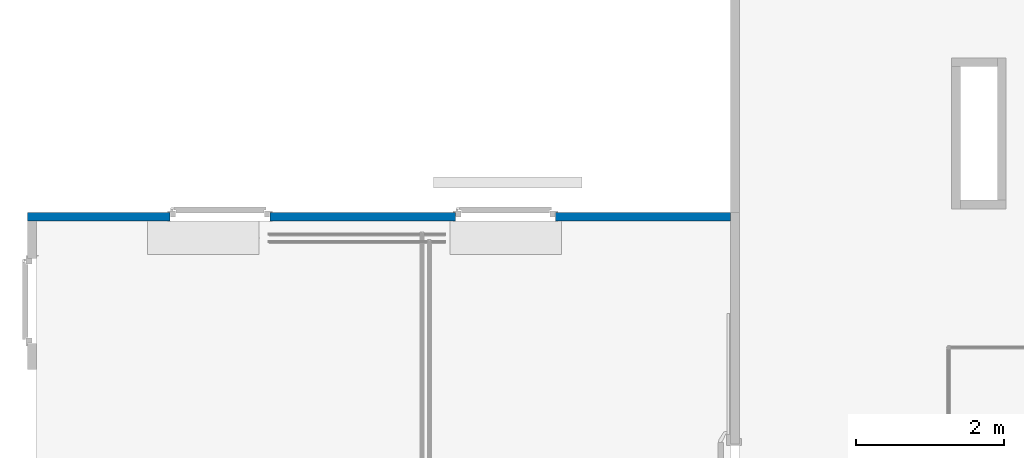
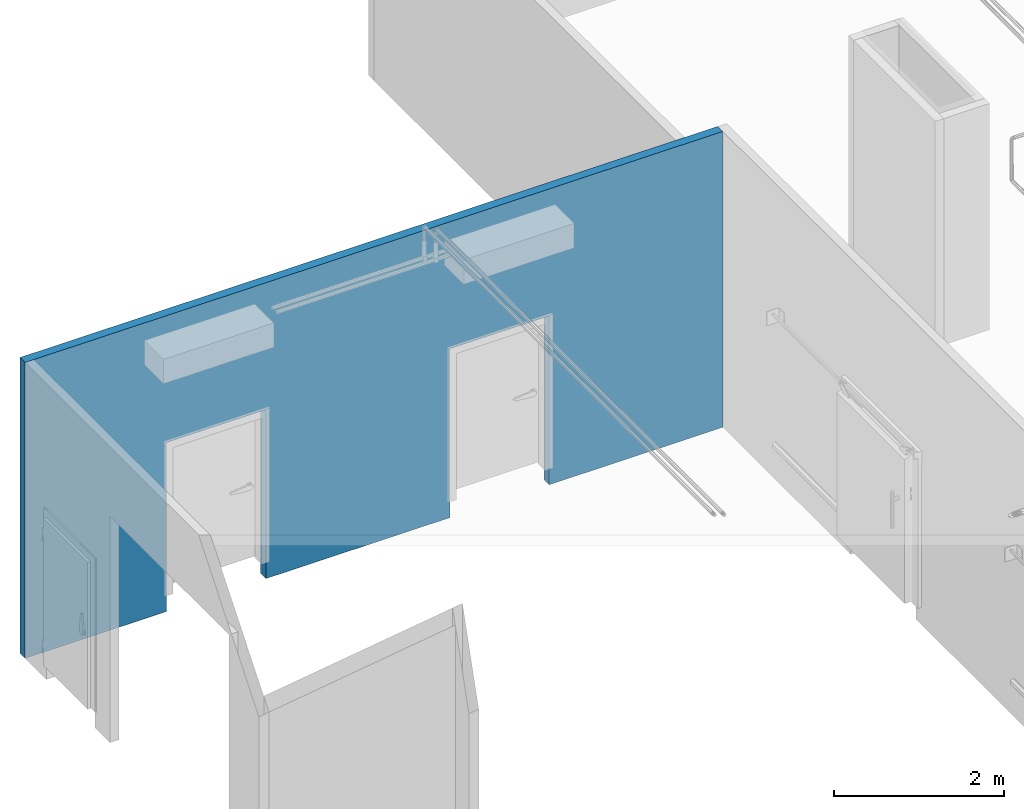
# One storey, part 26 of 652: 1 wall, 4 openings.
"""IFC2X3 building model written with IfcOpenShell, lengths in millimetres."""

import ifcopenshell
import ifcopenshell.guid

model = None  # the IFC model being written
_history = None  # IfcOwnerHistory: only IFC2X3 demands one
_inside = {}  # id of a spatial element -> (the spatial element, [elements in it])
_under = {}  # id of a project, library or spatial element -> (it, [spatial elements below it])
_declared = {}  # id of a project -> (the project, [libraries it declares])
_typed = {}  # id of a type object -> (the type object, [elements of that type])
_made_of = {}  # id of a material, layer set ... -> (it, [elements and type objects made of it])


def new_model(schema):
    """Start an empty IFC model of exactly this schema.

    Asked for "IFC4X3", IfcOpenShell would pick the latest addendum, in which some entities
    have other attributes; the version numbers below select the first issue.
    IFC2X3 requires an IfcOwnerHistory on every rooted entity: one is made here for all.
    """
    global model, _history
    if schema == "IFC4X3":
        model = ifcopenshell.file(schema_version=(4, 3, 0, 0))
    else:
        model = ifcopenshell.file(schema=schema)
    _inside.clear()
    _under.clear()
    _declared.clear()
    _typed.clear()
    _made_of.clear()
    _history = None
    if model.schema == "IFC2X3":
        org = make("IfcOrganization", Name="unknown")
        user = make(
            "IfcPersonAndOrganization",
            ThePerson=make("IfcPerson", FamilyName="unknown"),
            TheOrganization=org,
        )
        app = make(
            "IfcApplication",
            ApplicationDeveloper=org,
            Version="unknown",
            ApplicationFullName="unknown",
            ApplicationIdentifier="unknown",
        )
        _history = make(
            "IfcOwnerHistory",
            OwningUser=user,
            OwningApplication=app,
            ChangeAction="ADDED",
            CreationDate=0,
        )
    return model


def make(cls, **values):
    """One entity of the class cls with the attributes given. An attribute that is None is left unset."""
    return model.create_entity(
        cls, **{name: value for name, value in values.items() if value is not None}
    )


def entity(cls, *values):
    """Any entity or typed value of the class cls, its attributes in the order of the schema. None: left unset."""
    e = model.create_entity(cls)
    for i, value in enumerate(values):
        if value is not None:
            e[i] = value
    return e


def rooted(cls, **values):
    """An entity with a GlobalId (a new one), such as an element, a storey or a relation."""
    return make(cls, GlobalId=ifcopenshell.guid.new(), OwnerHistory=_history, **values)


def si_unit(unit_type, name, prefix=None):
    """IfcSIUnit, for example si_unit("LENGTHUNIT", "METRE", prefix="MILLI")."""
    return make("IfcSIUnit", UnitType=unit_type, Prefix=prefix, Name=name)


def converted_unit(unit_type, name, factor, base, dimensions=None, offset=None):
    """IfcConversionBasedUnit, such as the inch: factor (a typed value) times the base unit."""
    return make(
        "IfcConversionBasedUnit"
        if offset is None
        else "IfcConversionBasedUnitWithOffset",
        ConversionOffset=offset,
        Dimensions=None
        if dimensions is None
        else entity("IfcDimensionalExponents", *dimensions),
        UnitType=unit_type,
        Name=name,
        ConversionFactor=make(
            "IfcMeasureWithUnit", ValueComponent=factor, UnitComponent=base
        ),
    )


def assignment(units):
    """IfcUnitAssignment: the units of a project."""
    return None if units is None else make("IfcUnitAssignment", Units=units)


def point(xyz):
    """IfcCartesianPoint."""
    return None if xyz is None else make("IfcCartesianPoint", Coordinates=xyz)


def direction(xyz):
    """IfcDirection."""
    return None if xyz is None else make("IfcDirection", DirectionRatios=xyz)


def frame(location, z_axis=None, x_axis=None):
    """IfcAxis2Placement3D, a coordinate frame: its origin and axes. An axis left out is left unset."""
    return make(
        "IfcAxis2Placement3D",
        Location=point(location),
        Axis=direction(z_axis),
        RefDirection=direction(x_axis),
    )


def frame_2d(location, x_axis=None):
    """IfcAxis2Placement2D, a coordinate frame in the plane: its origin and x axis."""
    return make(
        "IfcAxis2Placement2D", Location=point(location), RefDirection=direction(x_axis)
    )


def origin():
    """The frame at (0, 0, 0) with its axes left unset."""
    return frame((0.0, 0.0, 0.0))


def origin_2d_with_axis():
    """The frame at (0, 0) in the plane with the x axis (1, 0) written out."""
    return frame_2d((0.0, 0.0), x_axis=(1.0, 0.0))


def place(relative_to, where):
    """IfcLocalPlacement: puts the frame where relative to a parent placement (None: the world)."""
    return make(
        "IfcLocalPlacement", PlacementRelTo=relative_to, RelativePlacement=where
    )


def context(
    kind, dimensions, precision=None, world=None, true_north=None, identifier=None
):
    """IfcGeometricRepresentationContext, for example the 3D "Model" context."""
    return make(
        "IfcGeometricRepresentationContext",
        ContextIdentifier=identifier,
        ContextType=kind,
        CoordinateSpaceDimension=dimensions,
        Precision=precision,
        WorldCoordinateSystem=world,
        TrueNorth=true_north,
    )


def subcontext(parent, identifier, kind, view, scale=None):
    """IfcGeometricRepresentationSubContext, for example "Body" below "Model"."""
    return make(
        "IfcGeometricRepresentationSubContext",
        ContextIdentifier=identifier,
        ContextType=kind,
        ParentContext=parent,
        TargetScale=scale,
        TargetView=view,
    )


def project(units=None, contexts=None):
    """IfcProject with its units and contexts."""
    return rooted(
        "IfcProject",
        Name="project",
        RepresentationContexts=contexts,
        UnitsInContext=assignment(units),
    )


def spatial(cls, under=None, at=None, **own):
    """A site, building, storey or space (cls), placed at a placement, below another one or the project."""
    s = rooted(cls, ObjectPlacement=at, **own)
    if under is not None:
        _under.setdefault(under.id(), (under, []))[1].append(s)
    return s


def profile(cls, at=None, kind="AREA", **sizes):
    """A parametric profile (cls). Its sizes go by their IFC names, for example OverallWidth=200.0."""
    return make(cls, ProfileType=kind, Position=at, **sizes)


def rectangle(**sizes):
    """IfcRectangleProfileDef."""
    return profile("IfcRectangleProfileDef", **sizes)


def extrude(swept, where, along, depth):
    """IfcExtrudedAreaSolid: the profile swept, set in the frame where, extruded along a direction by depth."""
    return make(
        "IfcExtrudedAreaSolid",
        SweptArea=swept,
        Position=where,
        ExtrudedDirection=direction(along),
        Depth=depth,
    )


def shape(context_of_items, identifier, shape_type, items):
    """IfcShapeRepresentation: the items that make up one representation, for example the "Body"."""
    return make(
        "IfcShapeRepresentation",
        ContextOfItems=context_of_items,
        RepresentationIdentifier=identifier,
        RepresentationType=shape_type,
        Items=items,
    )


def material(Name=None, Category=None):
    """IfcMaterial."""
    return make("IfcMaterial", Name=Name, Category=Category)


def layer(
    of_material, thickness, ventilated=None, Name=None, Category=None, Priority=None
):
    """IfcMaterialLayer: one layer of a wall or slab, of a material (None: an air gap)."""
    return make(
        "IfcMaterialLayer",
        Material=of_material,
        LayerThickness=thickness,
        IsVentilated=ventilated,
        Name=Name,
        Category=Category,
        Priority=Priority,
    )


def layer_set(layers, Name=None):
    """IfcMaterialLayerSet."""
    return make("IfcMaterialLayerSet", MaterialLayers=layers, LayerSetName=Name)


def layer_usage(for_layer_set, set_direction, sense, offset, extent=None):
    """IfcMaterialLayerSetUsage: how a layer set lies in its element."""
    return make(
        "IfcMaterialLayerSetUsage",
        ForLayerSet=for_layer_set,
        LayerSetDirection=set_direction,
        DirectionSense=sense,
        OffsetFromReferenceLine=offset,
        ReferenceExtent=extent,
    )


def made_of(thing, what):
    """Note that an element or type object is made of a material, layer set ...; save() writes the relation."""
    if what is not None:
        _made_of.setdefault(what.id(), (what, []))[1].append(thing)
    return thing


def type_object(cls, material=None, **own):
    """A type object (cls), such as IfcWallType, which elements share."""
    return made_of(rooted(cls, **own), material)


def element(
    cls,
    number,
    at=None,
    inside=None,
    cuts=None,
    type_object=None,
    material=None,
    context=None,
    identifier="Body",
    shape_type=None,
    held_by="IfcProductDefinitionShape",
    body=None,
    shapes=None,
    **own,
):
    """One element of the class cls, such as IfcWall. Its Tag is "e" and its number.

    at: its placement. inside: the storey or other place that contains it. cuts: it is an
    opening in that element (IfcRelVoidsElement). A single representation is given by context,
    identifier, shape_type and body (its items); several are given by shapes. held_by: the class
    of the entity that holds the representations. save() writes the other relations.
    """
    e = rooted(cls, Tag="e%d" % number, ObjectPlacement=at, **own)
    if body is not None:
        shapes = [shape(context, identifier, shape_type, body)]
    if shapes is not None:
        e.Representation = make(held_by, Representations=shapes)
    if inside is not None:
        _inside.setdefault(inside.id(), (inside, []))[1].append(e)
    if cuts is not None:
        rooted(
            "IfcRelVoidsElement", RelatingBuildingElement=cuts, RelatedOpeningElement=e
        )
    if type_object is not None:
        _typed.setdefault(type_object.id(), (type_object, []))[1].append(e)
    return made_of(e, material)


def aggregate(whole, parts):
    """IfcRelAggregates: a whole, such as a stair, and the parts it consists of."""
    return rooted("IfcRelAggregates", RelatingObject=whole, RelatedObjects=parts)


def save(model, path):
    """Write the relations noted so far, then the file.

    IfcRelAggregates (storeys below a building ...), IfcRelContainedInSpatialStructure (elements
    in a storey), IfcRelDefinesByType, IfcRelAssociatesMaterial and IfcRelDeclares: one each for
    every whole, place, type object, material and project.
    """
    for whole, parts in _under.values():
        aggregate(whole, parts)
    for where, things in _inside.values():
        rooted(
            "IfcRelContainedInSpatialStructure",
            RelatedElements=things,
            RelatingStructure=where,
        )
    for kind, things in _typed.values():
        rooted("IfcRelDefinesByType", RelatedObjects=things, RelatingType=kind)
    for what, things in _made_of.values():
        rooted("IfcRelAssociatesMaterial", RelatedObjects=things, RelatingMaterial=what)
    for by, libraries in _declared.values():
        rooted("IfcRelDeclares", RelatingContext=by, RelatedDefinitions=libraries)
    model.write(path)


model = new_model("IFC2X3")

# Units and contexts
model_context = context("Model", 3, precision=0.01, world=frame((0.0, 0.0, 308426.39999999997)), true_north=direction((6.123233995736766e-17, 1.0)))
plan_context = context("Plan", 3, precision=0.01, world=frame((0.0, 0.0, 308426.39999999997)), true_north=direction((6.123233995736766e-17, 1.0)))
body_context = subcontext(model_context, "Body", "Model", "MODEL_VIEW")
ifc_project = project(units=[si_unit("LENGTHUNIT", "METRE", prefix="MILLI"), si_unit("AREAUNIT", "SQUARE_METRE"), si_unit("VOLUMEUNIT", "CUBIC_METRE"), converted_unit("PLANEANGLEUNIT", "DEGREE", entity("IfcPlaneAngleMeasure", 0.017453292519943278), si_unit("PLANEANGLEUNIT", "RADIAN"), dimensions=[0, 0, 0, 0, 0, 0, 0])], contexts=[model_context, plan_context])

# Site, building, storey
site_placement = place(None, origin())
site = spatial("IfcSite", under=ifc_project, at=site_placement, Name="Default", CompositionType="ELEMENT")
building_placement = place(site_placement, origin())
building = spatial("IfcBuilding", under=site, at=building_placement, CompositionType="ELEMENT")
storey_placement = place(building_placement, frame((0.0, 0.0, 1730.6999999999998)))
storey = spatial("IfcBuildingStorey", under=building, at=storey_placement, Name="EG_Produktion_FFB", CompositionType="ELEMENT", Elevation=1730.6999999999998)

# Wall, openings
ifc_material = material(Name="GPG_Paneelwand")
ifc_layer = layer(ifc_material, 120.0)
ifc_layer_set = layer_set([ifc_layer], Name="Basiswand:Kühlzellen Paneelwand 120")
ifc_layer_usage = layer_usage(ifc_layer_set, "AXIS2", "POSITIVE", -60.0)
wall_type = type_object("IfcWallType", Name="Basiswand:Kühlzellen Paneelwand 120", PredefinedType="STANDARD", material=ifc_layer_set)
wall_placement = place(storey_placement, frame((9670.0, 69925.10319626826, -250.0)))
wall = element("IfcWallStandardCase", 1, at=wall_placement, inside=storey, type_object=wall_type, material=ifc_layer_usage, Name="Basiswand:Kühlzellen Paneelwand 120", ObjectType="Basiswand:Kühlzellen Paneelwand 120", context=body_context, shape_type="SweptSolid", body=[
    extrude(rectangle(XDim=9479.99999999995, YDim=120.00000000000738, at=frame_2d((4739.999999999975, -6.750155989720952e-14), x_axis=(-1.0, 0.0))), origin(), (0.0, 0.0, 1.0), 4250.0),
])
opening_1_placement = place(wall_placement, frame((-9670.0, -69925.10319626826, 250.0)))
element("IfcOpeningElement", 2, at=opening_1_placement, cuts=wall, Name="Basiswand:Kühlzellen Paneelwand 120", ObjectType="Opening", context=body_context, shape_type="SweptSolid", body=[
    extrude(rectangle(XDim=2175.0, YDim=1350.0000000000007, at=frame_2d((1.1368683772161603e-13, 0.0), x_axis=(1.0, 0.0))), frame((16115.0, 68341.10319626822, 1087.4999999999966), z_axis=(0.0, 1.0, 0.0), x_axis=(0.0, 0.0, 1.0)), (0.0, 0.0, 1.0), 3048.0),
])
opening_2_placement = place(wall_placement, frame((-9670.0, -69925.10319626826, 250.0)))
element("IfcOpeningElement", 3, at=opening_2_placement, cuts=wall, Name="Basiswand:Kühlzellen Paneelwand 120", ObjectType="Opening", context=body_context, shape_type="SweptSolid", body=[
    extrude(rectangle(XDim=249.99999999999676, YDim=1350.0000000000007, at=origin_2d_with_axis()), frame((16115.0, 68461.10319626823, -125.0), z_axis=(0.0, 1.0, 0.0), x_axis=(0.0, 0.0, 1.0)), (0.0, 0.0, 1.0), 3048.0),
])
opening_3_placement = place(wall_placement, frame((-9670.0, -69925.10319626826, 250.0)))
element("IfcOpeningElement", 4, at=opening_3_placement, cuts=wall, Name="Basiswand:Kühlzellen Paneelwand 120", ObjectType="Opening", context=body_context, shape_type="SweptSolid", body=[
    extrude(rectangle(XDim=2175.0, YDim=1350.0000000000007, at=frame_2d((1.1368683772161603e-13, 0.0), x_axis=(1.0, 0.0))), frame((12265.0, 68341.10319626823, 1087.4999999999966), z_axis=(0.0, 1.0, 0.0), x_axis=(0.0, 0.0, 1.0)), (0.0, 0.0, 1.0), 3048.0),
])
opening_4_placement = place(wall_placement, frame((-9670.0, -69925.10319626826, 250.0)))
element("IfcOpeningElement", 5, at=opening_4_placement, cuts=wall, Name="Basiswand:Kühlzellen Paneelwand 120", ObjectType="Opening", context=body_context, shape_type="SweptSolid", body=[
    extrude(rectangle(XDim=249.99999999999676, YDim=1350.0000000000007, at=origin_2d_with_axis()), frame((12265.0, 68461.10319626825, -125.0), z_axis=(0.0, 1.0, 0.0), x_axis=(0.0, 0.0, 1.0)), (0.0, 0.0, 1.0), 3048.0),
])

save(model, "model.ifc")
